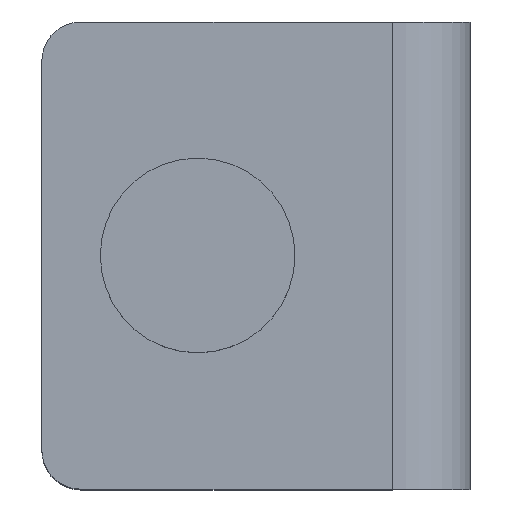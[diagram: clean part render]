
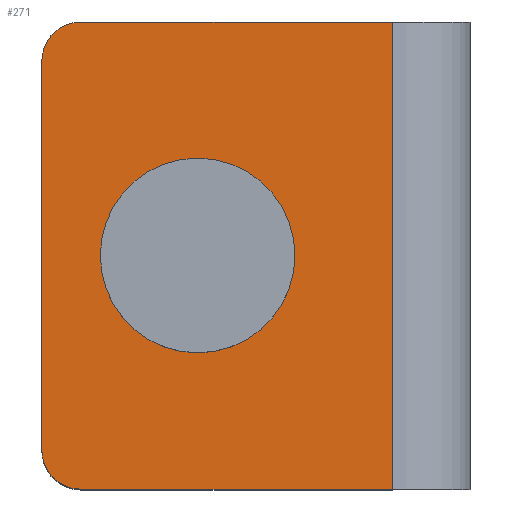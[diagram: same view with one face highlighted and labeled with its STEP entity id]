
A CAD part, top view. The second image highlights one B-rep face of the part: STEP entity #271.
In plain terms, the highlighted planar face has unit normal (0, 0, 1) as drawn and (0, 1, 0) by its records, which use the part's own axes.
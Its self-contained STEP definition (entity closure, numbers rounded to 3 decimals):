
#51 = CARTESIAN_POINT ( 'NONE',  ( -50., 60., 5. ) ) ;
#72 = CARTESIAN_POINT ( 'NONE',  ( -10., 60., 0. ) ) ;
#107 = DIRECTION ( 'NONE',  ( 0., 1., 0. ) ) ;
#196 = CARTESIAN_POINT ( 'NONE',  ( -50., 60., 55. ) ) ;
#222 = CARTESIAN_POINT ( 'NONE',  ( -55., 60., 55. ) ) ;
#223 = VECTOR ( 'NONE', #895, 1000. ) ;
#228 = DIRECTION ( 'NONE',  ( 0., 0., -1. ) ) ;
#237 = DIRECTION ( 'NONE',  ( 0., 1., 0. ) ) ;
#264 = FACE_OUTER_BOUND ( 'NONE', #475, .T. ) ;
#266 = VERTEX_POINT ( 'NONE', #521 ) ;
#271 = ADVANCED_FACE ( 'NONE', ( #364, #264 ), #337, .F. ) ;
#297 = VERTEX_POINT ( 'NONE', #72 ) ;
#300 = VERTEX_POINT ( 'NONE', #915 ) ;
#321 = ORIENTED_EDGE ( 'NONE', *, *, #588, .T. ) ;
#337 = PLANE ( 'NONE',  #664 ) ;
#338 = LINE ( 'NONE', #785, #351 ) ;
#351 = VECTOR ( 'NONE', #228, 1000. ) ;
#364 = FACE_BOUND ( 'NONE', #925, .T. ) ;
#412 = VERTEX_POINT ( 'NONE', #698 ) ;
#413 = DIRECTION ( 'NONE',  ( 0., 1., 0. ) ) ;
#425 = ORIENTED_EDGE ( 'NONE', *, *, #772, .T. ) ;
#434 = EDGE_CURVE ( 'NONE', #412, #266, #815, .T. ) ;
#465 = AXIS2_PLACEMENT_3D ( 'NONE', #523, #991, #519 ) ;
#472 = EDGE_CURVE ( 'NONE', #1112, #300, #1182, .T. ) ;
#475 = EDGE_LOOP ( 'NONE', ( #1123, #649, #425, #999, #1107, #321 ) ) ;
#495 = DIRECTION ( 'NONE',  ( -1., 0., 0. ) ) ;
#513 = CARTESIAN_POINT ( 'NONE',  ( -35., 60., 30. ) ) ;
#519 = DIRECTION ( 'NONE',  ( -1., 0., 0. ) ) ;
#521 = CARTESIAN_POINT ( 'NONE',  ( -26., 60., 30. ) ) ;
#522 = EDGE_CURVE ( 'NONE', #1112, #297, #529, .T. ) ;
#523 = CARTESIAN_POINT ( 'NONE',  ( -35., 60., 30. ) ) ;
#529 = LINE ( 'NONE', #813, #1194 ) ;
#532 = CARTESIAN_POINT ( 'NONE',  ( -10., 60., 60. ) ) ;
#535 = DIRECTION ( 'NONE',  ( 0., 0., -1. ) ) ;
#557 = CIRCLE ( 'NONE', #465, 9. ) ;
#588 = EDGE_CURVE ( 'NONE', #855, #300, #1007, .T. ) ;
#610 = VERTEX_POINT ( 'NONE', #1046 ) ;
#616 = DIRECTION ( 'NONE',  ( 1., 0., 0. ) ) ;
#624 = ORIENTED_EDGE ( 'NONE', *, *, #434, .F. ) ;
#649 = ORIENTED_EDGE ( 'NONE', *, *, #522, .T. ) ;
#664 = AXIS2_PLACEMENT_3D ( 'NONE', #1006, #902, #616 ) ;
#698 = CARTESIAN_POINT ( 'NONE',  ( -44., 60., 30. ) ) ;
#750 = ORIENTED_EDGE ( 'NONE', *, *, #972, .F. ) ;
#772 = EDGE_CURVE ( 'NONE', #297, #1022, #841, .T. ) ;
#775 = CARTESIAN_POINT ( 'NONE',  ( 0., 60., 0. ) ) ;
#785 = CARTESIAN_POINT ( 'NONE',  ( -55., 60., 60. ) ) ;
#813 = CARTESIAN_POINT ( 'NONE',  ( -10., 60., 60. ) ) ;
#815 = CIRCLE ( 'NONE', #1117, 9. ) ;
#824 = EDGE_CURVE ( 'NONE', #855, #610, #338, .T. ) ;
#841 = LINE ( 'NONE', #775, #1106 ) ;
#851 = AXIS2_PLACEMENT_3D ( 'NONE', #196, #107, #1039 ) ;
#855 = VERTEX_POINT ( 'NONE', #222 ) ;
#893 = CARTESIAN_POINT ( 'NONE',  ( -50., 60., 0. ) ) ;
#895 = DIRECTION ( 'NONE',  ( -1., 0., 0. ) ) ;
#897 = DIRECTION ( 'NONE',  ( -1., 0., 0. ) ) ;
#902 = DIRECTION ( 'NONE',  ( 0., -1., 0. ) ) ;
#906 = CARTESIAN_POINT ( 'NONE',  ( 0., 60., 60. ) ) ;
#915 = CARTESIAN_POINT ( 'NONE',  ( -50., 60., 60. ) ) ;
#925 = EDGE_LOOP ( 'NONE', ( #624, #750 ) ) ;
#933 = EDGE_CURVE ( 'NONE', #1022, #610, #960, .T. ) ;
#960 = CIRCLE ( 'NONE', #1103, 5. ) ;
#972 = EDGE_CURVE ( 'NONE', #266, #412, #557, .T. ) ;
#991 = DIRECTION ( 'NONE',  ( 0., 1., 0. ) ) ;
#999 = ORIENTED_EDGE ( 'NONE', *, *, #933, .T. ) ;
#1006 = CARTESIAN_POINT ( 'NONE',  ( 0., 60., 60. ) ) ;
#1007 = CIRCLE ( 'NONE', #851, 5. ) ;
#1022 = VERTEX_POINT ( 'NONE', #893 ) ;
#1039 = DIRECTION ( 'NONE',  ( 1., 0., 0. ) ) ;
#1046 = CARTESIAN_POINT ( 'NONE',  ( -55., 60., 5. ) ) ;
#1085 = DIRECTION ( 'NONE',  ( 1., 0., 0. ) ) ;
#1103 = AXIS2_PLACEMENT_3D ( 'NONE', #51, #413, #1085 ) ;
#1106 = VECTOR ( 'NONE', #495, 1000. ) ;
#1107 = ORIENTED_EDGE ( 'NONE', *, *, #824, .F. ) ;
#1112 = VERTEX_POINT ( 'NONE', #532 ) ;
#1117 = AXIS2_PLACEMENT_3D ( 'NONE', #513, #237, #897 ) ;
#1123 = ORIENTED_EDGE ( 'NONE', *, *, #472, .F. ) ;
#1182 = LINE ( 'NONE', #906, #223 ) ;
#1194 = VECTOR ( 'NONE', #535, 1000. ) ;
